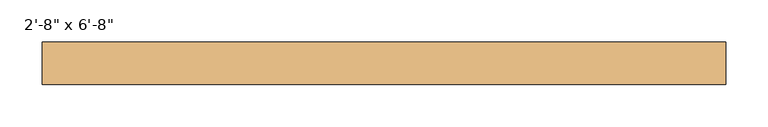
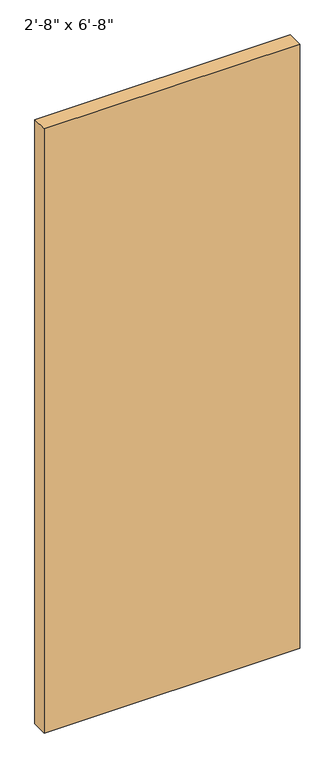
"""IFC4 building model written with IfcOpenShell, lengths in millimetres: door geometry."""

from ifc_helpers import new_model, si_unit, origin, origin_with_axes, place, context, project, spatial, polyline, outline, extrude, source, transform, mapped, element, save


def door_c18e4cd1(model_context):
    return source(origin(), model_context, "Body", "SweptSolid", [
        extrude(outline(polyline([(406.4, 12.5), (-406.4, 12.5), (-406.4, 63.5), (406.4, 63.5), (406.4, 12.5)])), origin_with_axes(), (0.0, 0.0, 1.0), 2032.0),
    ])


if __name__ == "__main__":
    model = new_model("IFC4")
    model_context = context("Model", 3, world=origin())
    ifc_project = project(units=[si_unit("LENGTHUNIT", "METRE", prefix="MILLI")], contexts=[model_context])
    site = spatial("IfcSite", under=ifc_project)
    building = spatial("IfcBuilding", under=site)
    placement = place(None, origin())
    door_shape = door_c18e4cd1(model_context)
    element("IfcDoor", 1, ObjectType="Planitar - Single Door_Flush Panel : 2'-8\" x 6'-8\"", at=placement, inside=building, context=model_context, shape_type="MappedRepresentation", body=[
        mapped(door_shape, transform((0.0, 0.0, 0.0), x_axis=(1.0, 0.0, 0.0), y_axis=(0.0, 1.0, 0.0), z_axis=(0.0, 0.0, 1.0))),
    ])
    save(model, "model.ifc")
